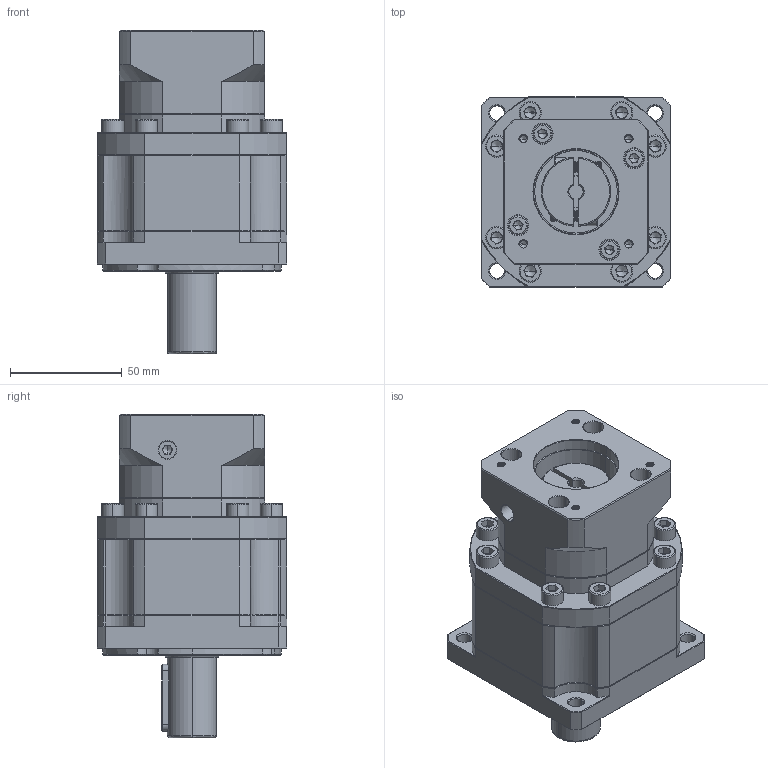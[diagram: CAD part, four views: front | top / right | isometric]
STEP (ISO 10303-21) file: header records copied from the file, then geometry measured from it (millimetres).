
FILE_DESCRIPTION (( 'STEP AP214' ), '1' );
FILE_NAME ('ZB090-D22-L2-P2-6.35-38.1-47.14X47.14-M4.step', '2023-08-18T13:36:58', ( '' ), ( '' ), 'SwSTEP 2.0', 'SolidWorks 2016', '' );
FILE_SCHEMA (( 'AUTOMOTIVE_DESIGN' ));
Length unit declared in the file: millimetre
Products named in the file (1): ZB090-D22-L2-P2-6.35-38.1-47.14X47.14-M4
Bounding box: 85 x 85 x 145 mm (x, y, z)
Volume: 550493.7 mm3; surface area: 76557.6 mm2
Topology: 6 solids, 6 shells, 2350 faces, 6249 edges, 3995 vertices
Faces by surface type: plane 1185, bspline 426, cylinder 394, cone 323, torus 22
Entity records: 123182 total; most frequent: CARTESIAN_POINT 42238, ORIENTED_EDGE 12406, DIRECTION 9894, EDGE_CURVE 6203, VERTEX_POINT 3995, VECTOR 3926, LINE 3926, AXIS2_PLACEMENT_3D 2984
